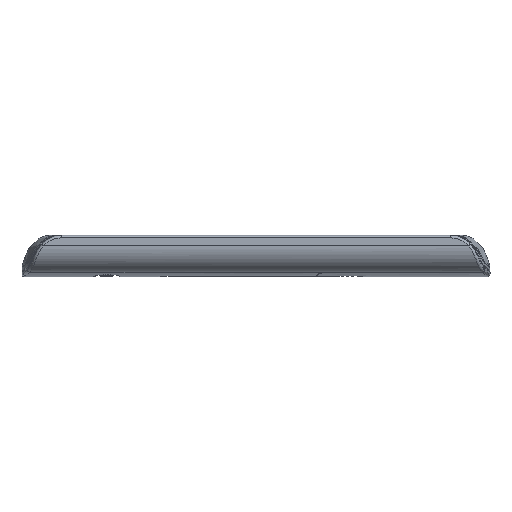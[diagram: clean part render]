
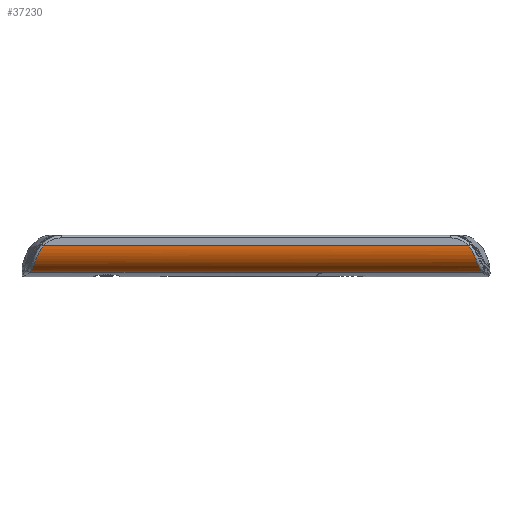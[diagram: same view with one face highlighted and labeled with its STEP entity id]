
A CAD part, left-side view. The second image highlights one B-rep face of the part: STEP entity #37230.
In plain terms, the highlighted cylindrical face has radius 11 mm (diameter 22 mm), a partial arc.
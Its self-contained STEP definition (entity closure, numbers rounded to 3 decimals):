
#1416 = EDGE_LOOP ( 'NONE', ( #67769, #27861, #26824, #103768, #111839, #90957 ) ) ;
#4268 = FACE_OUTER_BOUND ( 'NONE', #1416, .T. ) ;
#4832 = VECTOR ( 'NONE', #9391, 1000. ) ;
#4970 = EDGE_CURVE ( 'NONE', #19472, #63184, #85274, .T. ) ;
#5793 = DIRECTION ( 'NONE',  ( 0., 1., 0. ) ) ;
#8899 = CARTESIAN_POINT ( 'NONE',  ( -19.071, -98.465, -6.069 ) ) ;
#9391 = DIRECTION ( 'NONE',  ( 0., -1., 0. ) ) ;
#9534 = CARTESIAN_POINT ( 'NONE',  ( -24.048, 82.3, -0.807 ) ) ;
#16827 = CARTESIAN_POINT ( 'NONE',  ( -21.15, -97.782, -4.653 ) ) ;
#17204 = CARTESIAN_POINT ( 'NONE',  ( -23.034, -96.985, -2.57 ) ) ;
#17759 = EDGE_CURVE ( 'NONE', #22017, #86831, #89704, .T. ) ;
#19472 = VERTEX_POINT ( 'NONE', #84718 ) ;
#19530 = CARTESIAN_POINT ( 'NONE',  ( -16.333, 85.229, -7.037 ) ) ;
#19712 = CARTESIAN_POINT ( 'NONE',  ( -20.961, 83.852, -4.829 ) ) ;
#20227 = CARTESIAN_POINT ( 'NONE',  ( -16.681, -35.399, -6.956 ) ) ;
#20980 = CARTESIAN_POINT ( 'NONE',  ( -16.714, -35.659, -6.947 ) ) ;
#21353 = CARTESIAN_POINT ( 'NONE',  ( -16.714, -35.925, -6.947 ) ) ;
#22017 = VERTEX_POINT ( 'NONE', #75063 ) ;
#24531 = CYLINDRICAL_SURFACE ( 'NONE', #29668, 11. ) ;
#25543 = CARTESIAN_POINT ( 'NONE',  ( -24.59, -95.605, 0.721 ) ) ;
#26031 = CARTESIAN_POINT ( 'NONE',  ( -25., 79.707, 3.713 ) ) ;
#26300 = CARTESIAN_POINT ( 'NONE',  ( -20.659, -97.951, -5.049 ) ) ;
#26667 = CARTESIAN_POINT ( 'NONE',  ( -18.215, -98.718, -6.453 ) ) ;
#26824 = ORIENTED_EDGE ( 'NONE', *, *, #17759, .T. ) ;
#27680 = CARTESIAN_POINT ( 'NONE',  ( -16.333, 85.229, -7.037 ) ) ;
#27861 = ORIENTED_EDGE ( 'NONE', *, *, #48368, .T. ) ;
#28434 = CARTESIAN_POINT ( 'NONE',  ( -18.779, 84.554, -6.216 ) ) ;
#28950 = CARTESIAN_POINT ( 'NONE',  ( -16.333, -34.406, -7.037 ) ) ;
#29668 = AXIS2_PLACEMENT_3D ( 'NONE', #57714, #90548, #65965 ) ;
#34229 = CARTESIAN_POINT ( 'NONE',  ( -24.844, -94.999, 1.848 ) ) ;
#35351 = CARTESIAN_POINT ( 'NONE',  ( -22.477, -97.267, -3.326 ) ) ;
#35996 = CARTESIAN_POINT ( 'NONE',  ( -25., 79.707, 3.713 ) ) ;
#36241 = EDGE_CURVE ( 'NONE', #40193, #63184, #109761, .T. ) ;
#37230 = ADVANCED_FACE ( 'NONE', ( #4268 ), #24531, .T. ) ;
#37559 = EDGE_CURVE ( 'NONE', #19472, #110986, #50271, .T. ) ;
#39427 = VECTOR ( 'NONE', #5793, 1000. ) ;
#40193 = VERTEX_POINT ( 'NONE', #26031 ) ;
#42588 = CARTESIAN_POINT ( 'NONE',  ( -16.714, -99.13, -6.947 ) ) ;
#42947 = CARTESIAN_POINT ( 'NONE',  ( -24.965, -94.495, 2.671 ) ) ;
#45446 = CARTESIAN_POINT ( 'NONE',  ( -17.59, 84.897, -6.705 ) ) ;
#45827 = CARTESIAN_POINT ( 'NONE',  ( -19.351, 84.379, -5.92 ) ) ;
#47866 = CARTESIAN_POINT ( 'NONE',  ( -25., -93.707, 3.713 ) ) ;
#48368 = EDGE_CURVE ( 'NONE', #110986, #22017, #64282, .T. ) ;
#48900 = CARTESIAN_POINT ( 'NONE',  ( -16.333, -147., -7.037 ) ) ;
#50271 = B_SPLINE_CURVE_WITH_KNOTS ( 'NONE', 3,
 ( #28950, #89281, #63996, #20227, #20980, #21353 ),
 .UNSPECIFIED., .F., .F.,
 ( 4, 2, 4 ),
 ( 0., 0.001, 0.002 ),
 .UNSPECIFIED. ) ;
#51651 = CARTESIAN_POINT ( 'NONE',  ( -22.064, -97.442, -3.795 ) ) ;
#53379 = CARTESIAN_POINT ( 'NONE',  ( -23.129, 82.943, -2.458 ) ) ;
#57714 = CARTESIAN_POINT ( 'NONE',  ( -14., -147., 3.713 ) ) ;
#59890 = CARTESIAN_POINT ( 'NONE',  ( -17.327, -98.967, -6.777 ) ) ;
#60268 = CARTESIAN_POINT ( 'NONE',  ( -17.923, -98.801, -6.569 ) ) ;
#62380 = CARTESIAN_POINT ( 'NONE',  ( -23.469, 82.742, -1.92 ) ) ;
#63184 = VERTEX_POINT ( 'NONE', #19530 ) ;
#63996 = CARTESIAN_POINT ( 'NONE',  ( -16.554, -34.889, -6.987 ) ) ;
#64004 = DIRECTION ( 'NONE',  ( 0., -1., 0. ) ) ;
#64282 = LINE ( 'NONE', #71288, #4832 ) ;
#65965 = DIRECTION ( 'NONE',  ( 0., 0., 1. ) ) ;
#67769 = ORIENTED_EDGE ( 'NONE', *, *, #37559, .T. ) ;
#68526 = CARTESIAN_POINT ( 'NONE',  ( -24.323, -96.014, -0.132 ) ) ;
#68903 = CARTESIAN_POINT ( 'NONE',  ( -23.535, -96.685, -1.78 ) ) ;
#69944 = CARTESIAN_POINT ( 'NONE',  ( -22.343, 83.327, -3.485 ) ) ;
#70691 = CARTESIAN_POINT ( 'NONE',  ( -16.973, 85.065, -6.898 ) ) ;
#71288 = CARTESIAN_POINT ( 'NONE',  ( -16.714, -147., -6.947 ) ) ;
#75063 = CARTESIAN_POINT ( 'NONE',  ( -16.714, -99.13, -6.947 ) ) ;
#77248 = CARTESIAN_POINT ( 'NONE',  ( -23.21, -96.887, -2.309 ) ) ;
#79317 = VECTOR ( 'NONE', #64004, 1000. ) ;
#79368 = CARTESIAN_POINT ( 'NONE',  ( -25., 80.564, 2.667 ) ) ;
#79543 = EDGE_CURVE ( 'NONE', #40193, #86831, #107687, .T. ) ;
#81351 = CARTESIAN_POINT ( 'NONE',  ( -25., 94., 3.713 ) ) ;
#84718 = CARTESIAN_POINT ( 'NONE',  ( -16.333, -34.406, -7.037 ) ) ;
#85274 = LINE ( 'NONE', #48900, #39427 ) ;
#85908 = CARTESIAN_POINT ( 'NONE',  ( -24.666, -95.461, 1.007 ) ) ;
#86286 = CARTESIAN_POINT ( 'NONE',  ( -23.685, -96.581, -1.511 ) ) ;
#86666 = CARTESIAN_POINT ( 'NONE',  ( -24.793, -95.158, 1.57 ) ) ;
#86831 = VERTEX_POINT ( 'NONE', #47866 ) ;
#87039 = CARTESIAN_POINT ( 'NONE',  ( -19.618, -98.295, -5.765 ) ) ;
#87697 = CARTESIAN_POINT ( 'NONE',  ( -24.85, 81.226, 1.526 ) ) ;
#89281 = CARTESIAN_POINT ( 'NONE',  ( -16.458, -34.64, -7.01 ) ) ;
#89704 = B_SPLINE_CURVE_WITH_KNOTS ( 'NONE', 3,
 ( #42588, #95706, #59890, #60268, #26667, #8899, #87039, #102883, #26300, #16827, #94583, #51651, #35351, #17204, #77248, #68903, #86286, #111576, #68526, #25543, #85908, #86666, #34229, #42947, #103245, #111946 ),
 .UNSPECIFIED., .F., .F.,
 ( 4, 2, 2, 2, 2, 2, 2, 2, 2, 2, 2, 2, 4 ),
 ( 0., 0.001, 0.002, 0.004, 0.005, 0.006, 0.008, 0.009, 0.01, 0.012, 0.013, 0.014, 0.016 ),
 .UNSPECIFIED. ) ;
#90548 = DIRECTION ( 'NONE',  ( 0., 1., 0. ) ) ;
#90957 = ORIENTED_EDGE ( 'NONE', *, *, #4970, .F. ) ;
#91395 = CARTESIAN_POINT ( 'NONE',  ( -16.714, -35.925, -6.947 ) ) ;
#94583 = CARTESIAN_POINT ( 'NONE',  ( -21.386, -97.698, -4.445 ) ) ;
#95706 = CARTESIAN_POINT ( 'NONE',  ( -17.022, -99.05, -6.869 ) ) ;
#96352 = CARTESIAN_POINT ( 'NONE',  ( -24.287, 82.058, -0.232 ) ) ;
#97083 = CARTESIAN_POINT ( 'NONE',  ( -20.45, 84.024, -5.222 ) ) ;
#97444 = CARTESIAN_POINT ( 'NONE',  ( -21.908, 83.505, -3.96 ) ) ;
#102883 = CARTESIAN_POINT ( 'NONE',  ( -20.403, -98.038, -5.238 ) ) ;
#103245 = CARTESIAN_POINT ( 'NONE',  ( -25., -94.124, 3.204 ) ) ;
#103768 = ORIENTED_EDGE ( 'NONE', *, *, #79543, .F. ) ;
#107687 = LINE ( 'NONE', #81351, #79317 ) ;
#109761 = B_SPLINE_CURVE_WITH_KNOTS ( 'NONE', 3,
 ( #35996, #79368, #87697, #96352, #9534, #62380, #53379, #69944, #97444, #19712, #97083, #45827, #28434, #45446, #70691, #27680 ),
 .UNSPECIFIED., .F., .F.,
 ( 4, 2, 2, 2, 2, 2, 2, 4 ),
 ( 0., 0.004, 0.006, 0.008, 0.01, 0.012, 0.014, 0.016 ),
 .UNSPECIFIED. ) ;
#110986 = VERTEX_POINT ( 'NONE', #91395 ) ;
#111576 = CARTESIAN_POINT ( 'NONE',  ( -24.098, -96.252, -0.693 ) ) ;
#111839 = ORIENTED_EDGE ( 'NONE', *, *, #36241, .T. ) ;
#111946 = CARTESIAN_POINT ( 'NONE',  ( -25., -93.707, 3.713 ) ) ;
